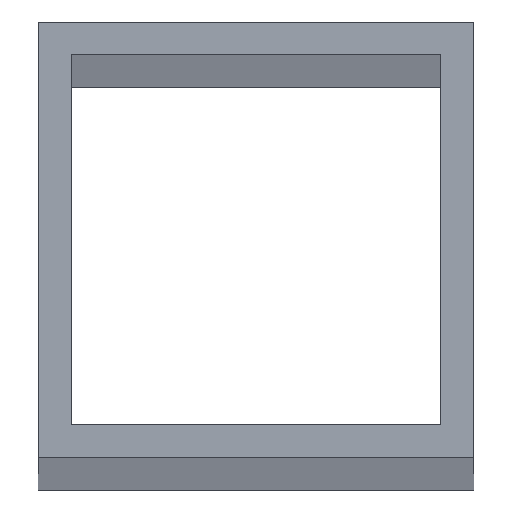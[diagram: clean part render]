
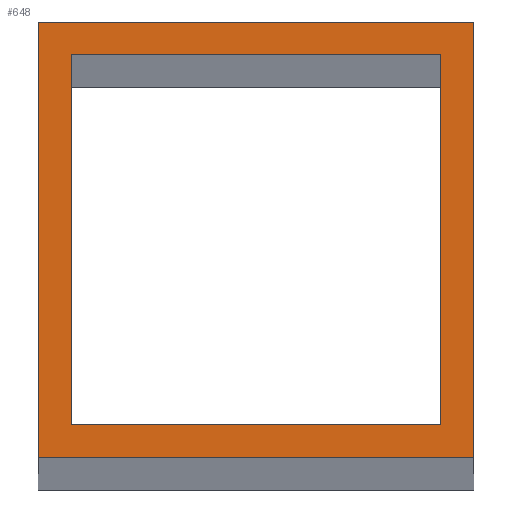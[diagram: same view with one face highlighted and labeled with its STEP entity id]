
A CAD part, top view. The second image highlights one B-rep face of the part: STEP entity #648.
In plain terms, the highlighted planar face has unit normal (0, 0, 1).
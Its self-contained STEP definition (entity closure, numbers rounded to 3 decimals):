
#24 = VERTEX_POINT('',#25);
#25 = CARTESIAN_POINT('',(-20.,-20.,1725.));
#32 = PLANE('',#33);
#33 = AXIS2_PLACEMENT_3D('',#34,#35,#36);
#34 = CARTESIAN_POINT('',(-20.,-20.,0.));
#35 = DIRECTION('',(0.,1.,0.));
#36 = DIRECTION('',(1.,0.,0.));
#44 = PLANE('',#45);
#45 = AXIS2_PLACEMENT_3D('',#46,#47,#48);
#46 = CARTESIAN_POINT('',(-20.,20.,0.));
#47 = DIRECTION('',(1.,0.,-0.));
#48 = DIRECTION('',(0.,-1.,0.));
#56 = EDGE_CURVE('',#24,#57,#59,.T.);
#57 = VERTEX_POINT('',#58);
#58 = CARTESIAN_POINT('',(20.,-20.,1725.));
#59 = SURFACE_CURVE('',#60,(#64,#71),.PCURVE_S1.);
#60 = LINE('',#61,#62);
#61 = CARTESIAN_POINT('',(-20.,-20.,1725.));
#62 = VECTOR('',#63,1.);
#63 = DIRECTION('',(1.,0.,0.));
#64 = PCURVE('',#32,#65);
#65 = DEFINITIONAL_REPRESENTATION('',(#66),#70);
#66 = LINE('',#67,#68);
#67 = CARTESIAN_POINT('',(0.,-1725.));
#68 = VECTOR('',#69,1.);
#69 = DIRECTION('',(1.,0.));
#70 = ( GEOMETRIC_REPRESENTATION_CONTEXT(2) 
PARAMETRIC_REPRESENTATION_CONTEXT() REPRESENTATION_CONTEXT('2D SPACE',''
  ) );
#71 = PCURVE('',#72,#77);
#72 = PLANE('',#73);
#73 = AXIS2_PLACEMENT_3D('',#74,#75,#76);
#74 = CARTESIAN_POINT('',(0.,0.,1725.));
#75 = DIRECTION('',(0.,0.,1.));
#76 = DIRECTION('',(1.,0.,-0.));
#77 = DEFINITIONAL_REPRESENTATION('',(#78),#82);
#78 = LINE('',#79,#80);
#79 = CARTESIAN_POINT('',(-20.,-20.));
#80 = VECTOR('',#81,1.);
#81 = DIRECTION('',(1.,0.));
#82 = ( GEOMETRIC_REPRESENTATION_CONTEXT(2) 
PARAMETRIC_REPRESENTATION_CONTEXT() REPRESENTATION_CONTEXT('2D SPACE',''
  ) );
#100 = PLANE('',#101);
#101 = AXIS2_PLACEMENT_3D('',#102,#103,#104);
#102 = CARTESIAN_POINT('',(20.,-20.,0.));
#103 = DIRECTION('',(-1.,0.,0.));
#104 = DIRECTION('',(0.,1.,0.));
#142 = EDGE_CURVE('',#57,#143,#145,.T.);
#143 = VERTEX_POINT('',#144);
#144 = CARTESIAN_POINT('',(20.,20.,1725.));
#145 = SURFACE_CURVE('',#146,(#150,#157),.PCURVE_S1.);
#146 = LINE('',#147,#148);
#147 = CARTESIAN_POINT('',(20.,-20.,1725.));
#148 = VECTOR('',#149,1.);
#149 = DIRECTION('',(0.,1.,0.));
#150 = PCURVE('',#100,#151);
#151 = DEFINITIONAL_REPRESENTATION('',(#152),#156);
#152 = LINE('',#153,#154);
#153 = CARTESIAN_POINT('',(0.,-1725.));
#154 = VECTOR('',#155,1.);
#155 = DIRECTION('',(1.,0.));
#156 = ( GEOMETRIC_REPRESENTATION_CONTEXT(2) 
PARAMETRIC_REPRESENTATION_CONTEXT() REPRESENTATION_CONTEXT('2D SPACE',''
  ) );
#157 = PCURVE('',#72,#158);
#158 = DEFINITIONAL_REPRESENTATION('',(#159),#163);
#159 = LINE('',#160,#161);
#160 = CARTESIAN_POINT('',(20.,-20.));
#161 = VECTOR('',#162,1.);
#162 = DIRECTION('',(0.,1.));
#163 = ( GEOMETRIC_REPRESENTATION_CONTEXT(2) 
PARAMETRIC_REPRESENTATION_CONTEXT() REPRESENTATION_CONTEXT('2D SPACE',''
  ) );
#181 = PLANE('',#182);
#182 = AXIS2_PLACEMENT_3D('',#183,#184,#185);
#183 = CARTESIAN_POINT('',(20.,20.,0.));
#184 = DIRECTION('',(0.,-1.,0.));
#185 = DIRECTION('',(-1.,0.,0.));
#218 = EDGE_CURVE('',#143,#219,#221,.T.);
#219 = VERTEX_POINT('',#220);
#220 = CARTESIAN_POINT('',(-20.,20.,1725.));
#221 = SURFACE_CURVE('',#222,(#226,#233),.PCURVE_S1.);
#222 = LINE('',#223,#224);
#223 = CARTESIAN_POINT('',(20.,20.,1725.));
#224 = VECTOR('',#225,1.);
#225 = DIRECTION('',(-1.,0.,0.));
#226 = PCURVE('',#181,#227);
#227 = DEFINITIONAL_REPRESENTATION('',(#228),#232);
#228 = LINE('',#229,#230);
#229 = CARTESIAN_POINT('',(0.,-1725.));
#230 = VECTOR('',#231,1.);
#231 = DIRECTION('',(1.,0.));
#232 = ( GEOMETRIC_REPRESENTATION_CONTEXT(2) 
PARAMETRIC_REPRESENTATION_CONTEXT() REPRESENTATION_CONTEXT('2D SPACE',''
  ) );
#233 = PCURVE('',#72,#234);
#234 = DEFINITIONAL_REPRESENTATION('',(#235),#239);
#235 = LINE('',#236,#237);
#236 = CARTESIAN_POINT('',(20.,20.));
#237 = VECTOR('',#238,1.);
#238 = DIRECTION('',(-1.,0.));
#239 = ( GEOMETRIC_REPRESENTATION_CONTEXT(2) 
PARAMETRIC_REPRESENTATION_CONTEXT() REPRESENTATION_CONTEXT('2D SPACE',''
  ) );
#289 = EDGE_CURVE('',#219,#24,#290,.T.);
#290 = SURFACE_CURVE('',#291,(#295,#302),.PCURVE_S1.);
#291 = LINE('',#292,#293);
#292 = CARTESIAN_POINT('',(-20.,20.,1725.));
#293 = VECTOR('',#294,1.);
#294 = DIRECTION('',(0.,-1.,0.));
#295 = PCURVE('',#44,#296);
#296 = DEFINITIONAL_REPRESENTATION('',(#297),#301);
#297 = LINE('',#298,#299);
#298 = CARTESIAN_POINT('',(0.,-1725.));
#299 = VECTOR('',#300,1.);
#300 = DIRECTION('',(1.,0.));
#301 = ( GEOMETRIC_REPRESENTATION_CONTEXT(2) 
PARAMETRIC_REPRESENTATION_CONTEXT() REPRESENTATION_CONTEXT('2D SPACE',''
  ) );
#302 = PCURVE('',#72,#303);
#303 = DEFINITIONAL_REPRESENTATION('',(#304),#308);
#304 = LINE('',#305,#306);
#305 = CARTESIAN_POINT('',(-20.,20.));
#306 = VECTOR('',#307,1.);
#307 = DIRECTION('',(0.,-1.));
#308 = ( GEOMETRIC_REPRESENTATION_CONTEXT(2) 
PARAMETRIC_REPRESENTATION_CONTEXT() REPRESENTATION_CONTEXT('2D SPACE',''
  ) );
#338 = VERTEX_POINT('',#339);
#339 = CARTESIAN_POINT('',(-17.,-17.,1725.));
#346 = PLANE('',#347);
#347 = AXIS2_PLACEMENT_3D('',#348,#349,#350);
#348 = CARTESIAN_POINT('',(-17.,-17.,0.));
#349 = DIRECTION('',(0.,1.,0.));
#350 = DIRECTION('',(1.,0.,0.));
#358 = PLANE('',#359);
#359 = AXIS2_PLACEMENT_3D('',#360,#361,#362);
#360 = CARTESIAN_POINT('',(-17.,17.,0.));
#361 = DIRECTION('',(1.,0.,-0.));
#362 = DIRECTION('',(0.,-1.,0.));
#370 = EDGE_CURVE('',#338,#371,#373,.T.);
#371 = VERTEX_POINT('',#372);
#372 = CARTESIAN_POINT('',(17.,-17.,1725.));
#373 = SURFACE_CURVE('',#374,(#378,#385),.PCURVE_S1.);
#374 = LINE('',#375,#376);
#375 = CARTESIAN_POINT('',(-17.,-17.,1725.));
#376 = VECTOR('',#377,1.);
#377 = DIRECTION('',(1.,0.,0.));
#378 = PCURVE('',#346,#379);
#379 = DEFINITIONAL_REPRESENTATION('',(#380),#384);
#380 = LINE('',#381,#382);
#381 = CARTESIAN_POINT('',(0.,-1725.));
#382 = VECTOR('',#383,1.);
#383 = DIRECTION('',(1.,0.));
#384 = ( GEOMETRIC_REPRESENTATION_CONTEXT(2) 
PARAMETRIC_REPRESENTATION_CONTEXT() REPRESENTATION_CONTEXT('2D SPACE',''
  ) );
#385 = PCURVE('',#72,#386);
#386 = DEFINITIONAL_REPRESENTATION('',(#387),#391);
#387 = LINE('',#388,#389);
#388 = CARTESIAN_POINT('',(-17.,-17.));
#389 = VECTOR('',#390,1.);
#390 = DIRECTION('',(1.,0.));
#391 = ( GEOMETRIC_REPRESENTATION_CONTEXT(2) 
PARAMETRIC_REPRESENTATION_CONTEXT() REPRESENTATION_CONTEXT('2D SPACE',''
  ) );
#409 = PLANE('',#410);
#410 = AXIS2_PLACEMENT_3D('',#411,#412,#413);
#411 = CARTESIAN_POINT('',(17.,-17.,0.));
#412 = DIRECTION('',(-1.,0.,0.));
#413 = DIRECTION('',(0.,1.,0.));
#446 = EDGE_CURVE('',#371,#447,#449,.T.);
#447 = VERTEX_POINT('',#448);
#448 = CARTESIAN_POINT('',(17.,17.,1725.));
#449 = SURFACE_CURVE('',#450,(#454,#461),.PCURVE_S1.);
#450 = LINE('',#451,#452);
#451 = CARTESIAN_POINT('',(17.,-17.,1725.));
#452 = VECTOR('',#453,1.);
#453 = DIRECTION('',(0.,1.,0.));
#454 = PCURVE('',#409,#455);
#455 = DEFINITIONAL_REPRESENTATION('',(#456),#460);
#456 = LINE('',#457,#458);
#457 = CARTESIAN_POINT('',(0.,-1725.));
#458 = VECTOR('',#459,1.);
#459 = DIRECTION('',(1.,0.));
#460 = ( GEOMETRIC_REPRESENTATION_CONTEXT(2) 
PARAMETRIC_REPRESENTATION_CONTEXT() REPRESENTATION_CONTEXT('2D SPACE',''
  ) );
#461 = PCURVE('',#72,#462);
#462 = DEFINITIONAL_REPRESENTATION('',(#463),#467);
#463 = LINE('',#464,#465);
#464 = CARTESIAN_POINT('',(17.,-17.));
#465 = VECTOR('',#466,1.);
#466 = DIRECTION('',(0.,1.));
#467 = ( GEOMETRIC_REPRESENTATION_CONTEXT(2) 
PARAMETRIC_REPRESENTATION_CONTEXT() REPRESENTATION_CONTEXT('2D SPACE',''
  ) );
#485 = PLANE('',#486);
#486 = AXIS2_PLACEMENT_3D('',#487,#488,#489);
#487 = CARTESIAN_POINT('',(17.,17.,0.));
#488 = DIRECTION('',(0.,-1.,0.));
#489 = DIRECTION('',(-1.,0.,0.));
#522 = EDGE_CURVE('',#447,#523,#525,.T.);
#523 = VERTEX_POINT('',#524);
#524 = CARTESIAN_POINT('',(-17.,17.,1725.));
#525 = SURFACE_CURVE('',#526,(#530,#537),.PCURVE_S1.);
#526 = LINE('',#527,#528);
#527 = CARTESIAN_POINT('',(17.,17.,1725.));
#528 = VECTOR('',#529,1.);
#529 = DIRECTION('',(-1.,0.,0.));
#530 = PCURVE('',#485,#531);
#531 = DEFINITIONAL_REPRESENTATION('',(#532),#536);
#532 = LINE('',#533,#534);
#533 = CARTESIAN_POINT('',(0.,-1725.));
#534 = VECTOR('',#535,1.);
#535 = DIRECTION('',(1.,0.));
#536 = ( GEOMETRIC_REPRESENTATION_CONTEXT(2) 
PARAMETRIC_REPRESENTATION_CONTEXT() REPRESENTATION_CONTEXT('2D SPACE',''
  ) );
#537 = PCURVE('',#72,#538);
#538 = DEFINITIONAL_REPRESENTATION('',(#539),#543);
#539 = LINE('',#540,#541);
#540 = CARTESIAN_POINT('',(17.,17.));
#541 = VECTOR('',#542,1.);
#542 = DIRECTION('',(-1.,0.));
#543 = ( GEOMETRIC_REPRESENTATION_CONTEXT(2) 
PARAMETRIC_REPRESENTATION_CONTEXT() REPRESENTATION_CONTEXT('2D SPACE',''
  ) );
#593 = EDGE_CURVE('',#523,#338,#594,.T.);
#594 = SURFACE_CURVE('',#595,(#599,#606),.PCURVE_S1.);
#595 = LINE('',#596,#597);
#596 = CARTESIAN_POINT('',(-17.,17.,1725.));
#597 = VECTOR('',#598,1.);
#598 = DIRECTION('',(0.,-1.,0.));
#599 = PCURVE('',#358,#600);
#600 = DEFINITIONAL_REPRESENTATION('',(#601),#605);
#601 = LINE('',#602,#603);
#602 = CARTESIAN_POINT('',(0.,-1725.));
#603 = VECTOR('',#604,1.);
#604 = DIRECTION('',(1.,0.));
#605 = ( GEOMETRIC_REPRESENTATION_CONTEXT(2) 
PARAMETRIC_REPRESENTATION_CONTEXT() REPRESENTATION_CONTEXT('2D SPACE',''
  ) );
#606 = PCURVE('',#72,#607);
#607 = DEFINITIONAL_REPRESENTATION('',(#608),#612);
#608 = LINE('',#609,#610);
#609 = CARTESIAN_POINT('',(-17.,17.));
#610 = VECTOR('',#611,1.);
#611 = DIRECTION('',(0.,-1.));
#612 = ( GEOMETRIC_REPRESENTATION_CONTEXT(2) 
PARAMETRIC_REPRESENTATION_CONTEXT() REPRESENTATION_CONTEXT('2D SPACE',''
  ) );
#648 = ADVANCED_FACE('',(#649,#655),#72,.T.);
#649 = FACE_BOUND('',#650,.T.);
#650 = EDGE_LOOP('',(#651,#652,#653,#654));
#651 = ORIENTED_EDGE('',*,*,#56,.T.);
#652 = ORIENTED_EDGE('',*,*,#142,.T.);
#653 = ORIENTED_EDGE('',*,*,#218,.T.);
#654 = ORIENTED_EDGE('',*,*,#289,.T.);
#655 = FACE_BOUND('',#656,.F.);
#656 = EDGE_LOOP('',(#657,#658,#659,#660));
#657 = ORIENTED_EDGE('',*,*,#370,.T.);
#658 = ORIENTED_EDGE('',*,*,#446,.T.);
#659 = ORIENTED_EDGE('',*,*,#522,.T.);
#660 = ORIENTED_EDGE('',*,*,#593,.T.);
